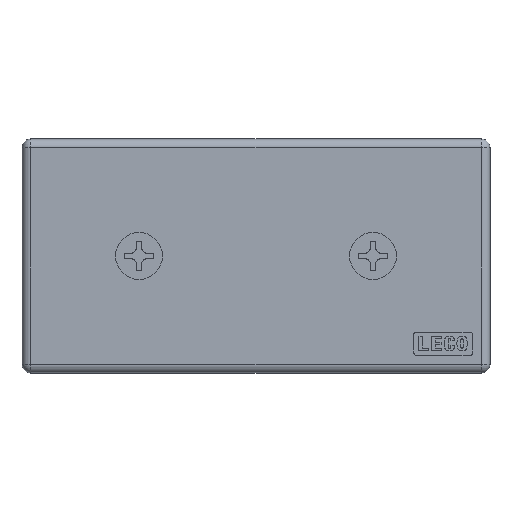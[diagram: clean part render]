
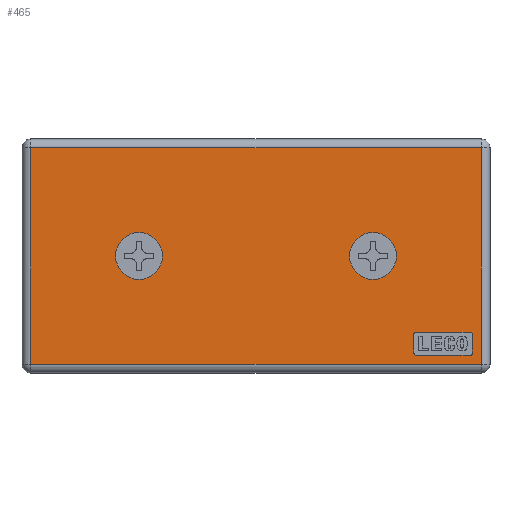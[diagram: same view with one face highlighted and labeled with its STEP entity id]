
A CAD part, top view. The second image highlights one B-rep face of the part: STEP entity #465.
In plain terms, the highlighted planar face has unit normal (0, 0, 1).
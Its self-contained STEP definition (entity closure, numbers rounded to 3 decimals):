
#465=ADVANCED_FACE('',(#1114,#1115,#1116,#1117),#1118,.F.);
#1114=FACE_BOUND('',#2363,.T.);
#1115=FACE_BOUND('',#2364,.T.);
#1116=FACE_BOUND('',#2365,.T.);
#1117=FACE_OUTER_BOUND('',#2366,.T.);
#1118=PLANE('',#2367);
#2363=EDGE_LOOP('',(#5087,#5088,#5089,#5090,#5091,#5092,#5093,#5094));
#2364=EDGE_LOOP('',(#5095));
#2365=EDGE_LOOP('',(#5096));
#2366=EDGE_LOOP('',(#5097,#5098,#5099,#5100));
#2367=AXIS2_PLACEMENT_3D('',#5101,#5102,#5103);
#5087=ORIENTED_EDGE('',*,*,#7128,.F.);
#5088=ORIENTED_EDGE('',*,*,#6786,.F.);
#5089=ORIENTED_EDGE('',*,*,#7129,.F.);
#5090=ORIENTED_EDGE('',*,*,#7130,.F.);
#5091=ORIENTED_EDGE('',*,*,#6856,.F.);
#5092=ORIENTED_EDGE('',*,*,#7131,.F.);
#5093=ORIENTED_EDGE('',*,*,#7132,.F.);
#5094=ORIENTED_EDGE('',*,*,#7133,.F.);
#5095=ORIENTED_EDGE('',*,*,#7134,.T.);
#5096=ORIENTED_EDGE('',*,*,#7035,.T.);
#5097=ORIENTED_EDGE('',*,*,#7135,.F.);
#5098=ORIENTED_EDGE('',*,*,#7136,.T.);
#5099=ORIENTED_EDGE('',*,*,#7137,.T.);
#5100=ORIENTED_EDGE('',*,*,#6700,.F.);
#5101=CARTESIAN_POINT('',(1.5,43.286,3.));
#5102=DIRECTION('',(0.0,0.0,-1.0));
#5103=DIRECTION('',(0.0,1.0,0.0));
#6700=EDGE_CURVE('',#7697,#7698,#7699,.T.);
#6786=EDGE_CURVE('',#7849,#7850,#7851,.T.);
#6856=EDGE_CURVE('',#7971,#7972,#7973,.T.);
#7035=EDGE_CURVE('',#8261,#8261,#8262,.T.);
#7128=EDGE_CURVE('',#7850,#8403,#8404,.T.);
#7129=EDGE_CURVE('',#8405,#7849,#8406,.T.);
#7130=EDGE_CURVE('',#7972,#8405,#8407,.T.);
#7131=EDGE_CURVE('',#8408,#7971,#8409,.T.);
#7132=EDGE_CURVE('',#8410,#8408,#8411,.T.);
#7133=EDGE_CURVE('',#8403,#8410,#8412,.T.);
#7134=EDGE_CURVE('',#8413,#8413,#8414,.T.);
#7135=EDGE_CURVE('',#8415,#7697,#8416,.T.);
#7136=EDGE_CURVE('',#8415,#7712,#8417,.T.);
#7137=EDGE_CURVE('',#7712,#7698,#8418,.T.);
#7697=VERTEX_POINT('',#9119);
#7698=VERTEX_POINT('',#9120);
#7699=LINE('',#9121,#9122);
#7712=VERTEX_POINT('',#9220);
#7849=VERTEX_POINT('',#9408);
#7850=VERTEX_POINT('',#9409);
#7851=CIRCLE('',#9410,0.4);
#7971=VERTEX_POINT('',#9692);
#7972=VERTEX_POINT('',#9693);
#7973=LINE('',#9694,#9695);
#8261=VERTEX_POINT('',#10079);
#8262=CIRCLE('',#10080,4.0);
#8403=VERTEX_POINT('',#10318);
#8404=LINE('',#10319,#10320);
#8405=VERTEX_POINT('',#10321);
#8406=LINE('',#10322,#10323);
#8407=CIRCLE('',#10324,0.4);
#8408=VERTEX_POINT('',#10325);
#8409=CIRCLE('',#10326,0.4);
#8410=VERTEX_POINT('',#10327);
#8411=LINE('',#10328,#10329);
#8412=CIRCLE('',#10330,0.4);
#8413=VERTEX_POINT('',#10331);
#8414=CIRCLE('',#10332,4.0);
#8415=VERTEX_POINT('',#10333);
#8416=LINE('',#10334,#10335);
#8417=LINE('',#10336,#10337);
#8418=LINE('',#10338,#10339);
#9119=CARTESIAN_POINT('',(78.5,1.5,3.));
#9120=CARTESIAN_POINT('',(1.5,1.5,3.));
#9121=CARTESIAN_POINT('',(86.234,1.5,3.));
#9122=VECTOR('',#11590,1.0);
#9220=CARTESIAN_POINT('',(1.5,38.5,3.));
#9408=CARTESIAN_POINT('',(67.4,7.,3.));
#9409=CARTESIAN_POINT('',(67.0,6.6,3.));
#9410=AXIS2_PLACEMENT_3D('',#11732,#11733,#11734);
#9692=CARTESIAN_POINT('',(77.0,3.4,3.));
#9693=CARTESIAN_POINT('',(77.0,6.6,3.));
#9694=CARTESIAN_POINT('',(77.0,3.4,3.));
#9695=VECTOR('',#11821,1.0);
#10079=CARTESIAN_POINT('',(20.,16.,3.));
#10080=AXIS2_PLACEMENT_3D('',#12075,#12076,#12077);
#10318=CARTESIAN_POINT('',(67.0,3.4,3.));
#10319=CARTESIAN_POINT('',(67.0,6.6,3.));
#10320=VECTOR('',#12217,1.0);
#10321=CARTESIAN_POINT('',(76.6,7.,3.));
#10322=CARTESIAN_POINT('',(76.6,7.,3.));
#10323=VECTOR('',#12218,1.0);
#10324=AXIS2_PLACEMENT_3D('',#12219,#12220,#12221);
#10325=CARTESIAN_POINT('',(76.6,3.,3.));
#10326=AXIS2_PLACEMENT_3D('',#12222,#12223,#12224);
#10327=CARTESIAN_POINT('',(67.4,3.,3.));
#10328=CARTESIAN_POINT('',(67.4,3.,3.));
#10329=VECTOR('',#12225,1.0);
#10330=AXIS2_PLACEMENT_3D('',#12226,#12227,#12228);
#10331=CARTESIAN_POINT('',(60.0,16.,3.));
#10332=AXIS2_PLACEMENT_3D('',#12229,#12230,#12231);
#10333=CARTESIAN_POINT('',(78.5,38.5,3.));
#10334=CARTESIAN_POINT('',(78.5,43.286,3.));
#10335=VECTOR('',#12232,1.0);
#10336=CARTESIAN_POINT('',(86.234,38.5,3.));
#10337=VECTOR('',#12233,1.0);
#10338=CARTESIAN_POINT('',(1.5,43.286,3.));
#10339=VECTOR('',#12234,1.0);
#11590=DIRECTION('',(-1.0,0.0,0.0));
#11732=CARTESIAN_POINT('',(67.4,6.6,3.));
#11733=DIRECTION('',(0.0,0.0,1.0));
#11734=DIRECTION('',(1.0,0.0,0.0));
#11821=DIRECTION('',(0.,1.0,0.0));
#12075=CARTESIAN_POINT('',(20.,20.,3.));
#12076=DIRECTION('',(0.0,0.0,-1.0));
#12077=DIRECTION('',(0.0,-1.0,0.0));
#12217=DIRECTION('',(0.0,-1.0,0.0));
#12218=DIRECTION('',(-1.0,0.0,0.0));
#12219=CARTESIAN_POINT('',(76.6,6.6,3.));
#12220=DIRECTION('',(0.0,0.0,1.0));
#12221=DIRECTION('',(1.0,0.0,0.0));
#12222=CARTESIAN_POINT('',(76.6,3.4,3.));
#12223=DIRECTION('',(0.0,0.0,1.0));
#12224=DIRECTION('',(1.0,0.0,0.0));
#12225=DIRECTION('',(1.0,0.0,0.0));
#12226=CARTESIAN_POINT('',(67.4,3.4,3.));
#12227=DIRECTION('',(0.0,0.0,1.0));
#12228=DIRECTION('',(1.0,0.0,0.0));
#12229=CARTESIAN_POINT('',(60.0,20.,3.));
#12230=DIRECTION('',(0.0,0.0,-1.0));
#12231=DIRECTION('',(0.0,-1.0,0.0));
#12232=DIRECTION('',(0.0,-1.0,0.0));
#12233=DIRECTION('',(-1.0,0.0,0.0));
#12234=DIRECTION('',(0.0,-1.0,0.0));
